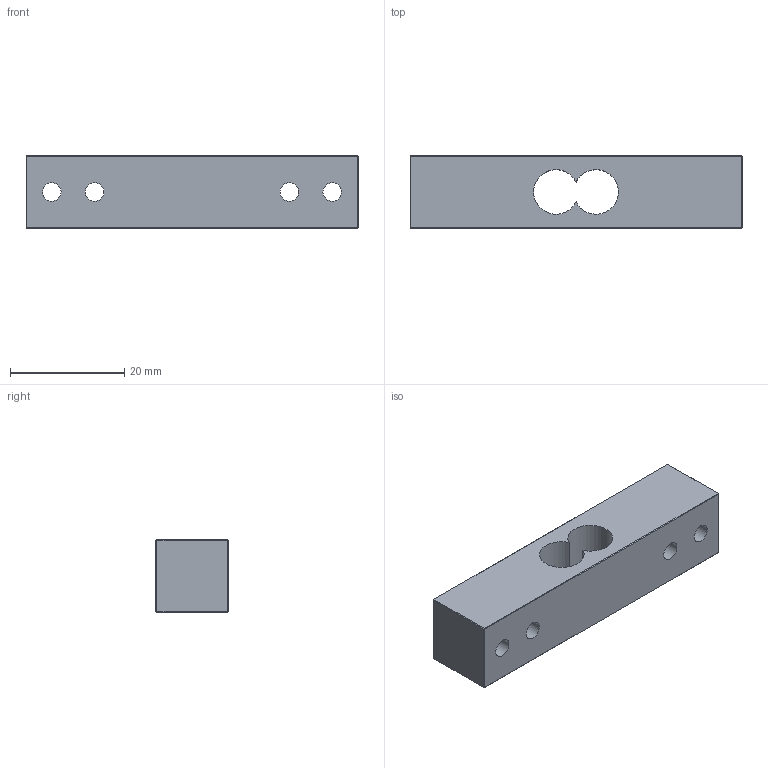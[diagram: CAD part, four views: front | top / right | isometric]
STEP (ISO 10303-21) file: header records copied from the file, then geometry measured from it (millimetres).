
FILE_DESCRIPTION(('HOOPS Exchange Step'),'2;1');
FILE_NAME('C:\Users\Burley\AppData\Local\Temp\Alibre Design\export-783E612B-BE99-4E5F-8DC4-E704B6DB2D33.stp','2025-07-03T10:32:26-06:00',('Burley'),('Alibre'),'HOOPS Exchange 2021.0','Alibre','Unknown authorisation');
FILE_SCHEMA( ('AP242_MANAGED_MODEL_BASED_3D_ENGINEERING_MIM_LF {1 0 10303 442 1 1 4 }') );
Length unit declared in the file: millimetre
Products named in the file (1): FRC4116_0
Bounding box: 58 x 12.65 x 12.65 mm (x, y, z)
Volume: 7676.3 mm3; surface area: 4026.6 mm2
Topology: 1 solids, 1 shells, 31 faces, 79 edges, 50 vertices
Faces by surface type: plane 24, cylinder 7
Full cylindrical faces by diameter (mm): 3.242 x4
Entity records: 977 total; most frequent: DIRECTION 163, CARTESIAN_POINT 162, ORIENTED_EDGE 158, EDGE_CURVE 79, VECTOR 61, LINE 61, AXIS2_PLACEMENT_3D 51, VERTEX_POINT 50
